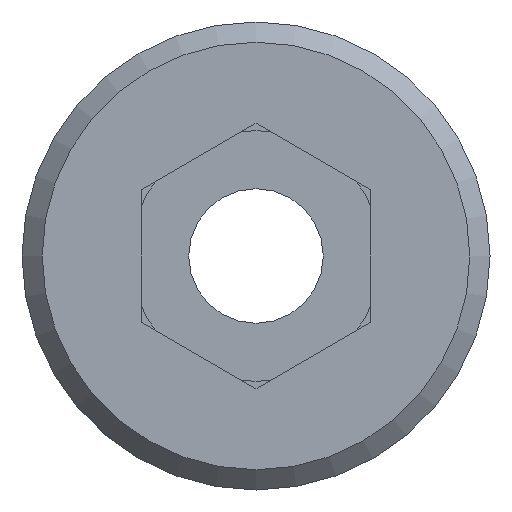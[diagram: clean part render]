
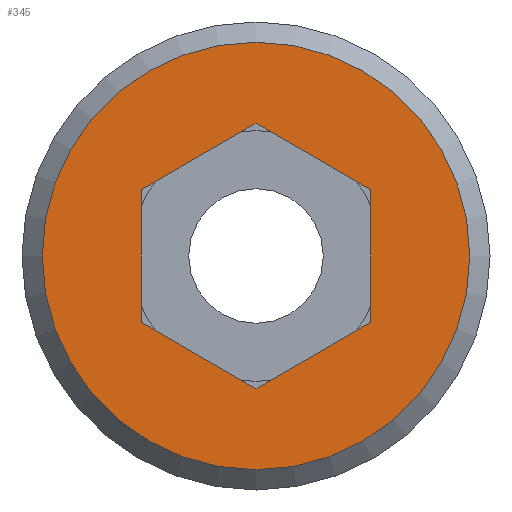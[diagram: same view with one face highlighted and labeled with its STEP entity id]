
A CAD part, front view. The second image highlights one B-rep face of the part: STEP entity #345.
In plain terms, the highlighted planar face has unit normal (0, -1, 0).
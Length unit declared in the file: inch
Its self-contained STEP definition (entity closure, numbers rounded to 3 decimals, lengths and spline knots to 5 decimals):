
#19=FACE_BOUND('',#87,.T.);
#39=CIRCLE('',#390,0.173);
#65=FACE_OUTER_BOUND('',#86,.T.);
#86=EDGE_LOOP('',(#285));
#87=EDGE_LOOP('',(#286,#287,#288,#289,#290,#291));
#95=LINE('',#524,#119);
#99=LINE('',#532,#123);
#102=LINE('',#538,#126);
#105=LINE('',#544,#129);
#108=LINE('',#550,#132);
#111=LINE('',#555,#135);
#119=VECTOR('',#412,0.3937);
#123=VECTOR('',#418,0.3937);
#126=VECTOR('',#423,0.3937);
#129=VECTOR('',#428,0.3937);
#132=VECTOR('',#433,0.3937);
#135=VECTOR('',#438,0.3937);
#143=VERTEX_POINT('',#522);
#144=VERTEX_POINT('',#523);
#147=VERTEX_POINT('',#531);
#149=VERTEX_POINT('',#537);
#151=VERTEX_POINT('',#543);
#153=VERTEX_POINT('',#549);
#166=VERTEX_POINT('',#588);
#177=EDGE_CURVE('',#143,#144,#95,.T.);
#181=EDGE_CURVE('',#147,#143,#99,.T.);
#184=EDGE_CURVE('',#149,#147,#102,.T.);
#187=EDGE_CURVE('',#151,#149,#105,.T.);
#190=EDGE_CURVE('',#153,#151,#108,.T.);
#193=EDGE_CURVE('',#144,#153,#111,.T.);
#209=EDGE_CURVE('',#166,#166,#39,.T.);
#285=ORIENTED_EDGE('',*,*,#209,.F.);
#286=ORIENTED_EDGE('',*,*,#190,.T.);
#287=ORIENTED_EDGE('',*,*,#187,.T.);
#288=ORIENTED_EDGE('',*,*,#184,.T.);
#289=ORIENTED_EDGE('',*,*,#181,.T.);
#290=ORIENTED_EDGE('',*,*,#177,.T.);
#291=ORIENTED_EDGE('',*,*,#193,.T.);
#329=PLANE('',#396);
#345=ADVANCED_FACE('',(#65,#19),#329,.T.);
#390=AXIS2_PLACEMENT_3D('',#589,#479,#480);
#396=AXIS2_PLACEMENT_3D('',#601,#493,#494);
#412=DIRECTION('',(-0.866,0.,-0.5));
#418=DIRECTION('',(0.,0.,-1.));
#423=DIRECTION('',(0.866,0.,-0.5));
#428=DIRECTION('',(0.866,0.,0.5));
#433=DIRECTION('',(0.,0.,1.));
#438=DIRECTION('',(-0.866,0.,0.5));
#479=DIRECTION('center_axis',(0.,1.,0.));
#480=DIRECTION('ref_axis',(0.,0.,1.));
#493=DIRECTION('center_axis',(0.,-1.,0.));
#494=DIRECTION('ref_axis',(0.,0.,-1.));
#522=CARTESIAN_POINT('',(0.093,0.,-0.05369));
#523=CARTESIAN_POINT('',(0.,0.,-0.10739));
#524=CARTESIAN_POINT('',(0.04961,0.,-0.07874));
#531=CARTESIAN_POINT('',(0.093,0.,0.05369));
#532=CARTESIAN_POINT('',(0.093,0.,-0.01965));
#537=CARTESIAN_POINT('',(0.,0.,0.10739));
#538=CARTESIAN_POINT('',(0.04339,0.,0.08234));
#543=CARTESIAN_POINT('',(-0.093,0.,0.05369));
#544=CARTESIAN_POINT('',(-0.08989,0.,0.05549));
#549=CARTESIAN_POINT('',(-0.093,0.,-0.05369));
#550=CARTESIAN_POINT('',(-0.093,0.,-0.07335));
#555=CARTESIAN_POINT('',(-0.00311,0.,-0.10559));
#588=CARTESIAN_POINT('',(0.,0.,-0.173));
#589=CARTESIAN_POINT('Origin',(0.,0.,0.));
#601=CARTESIAN_POINT('Origin',(0.,0.,-0.093));
